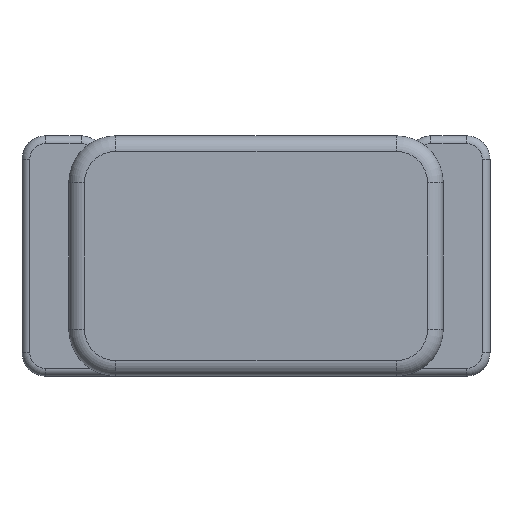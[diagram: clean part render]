
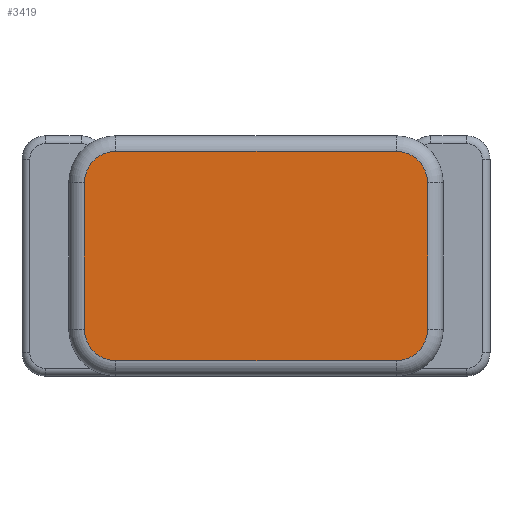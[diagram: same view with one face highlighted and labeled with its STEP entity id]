
A CAD part, front view. The second image highlights one B-rep face of the part: STEP entity #3419.
In plain terms, the highlighted planar face has unit normal (0, -1, 0).
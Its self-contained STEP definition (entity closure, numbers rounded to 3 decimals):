
#302=CARTESIAN_POINT('',(-3.7,-23.4,3.));
#303=DIRECTION('',(0.,-1.,0.));
#304=DIRECTION('',(0.,0.,-1.));
#305=AXIS2_PLACEMENT_3D('',#302,#303,#304);
#317=DIRECTION('',(-1.,0.,0.));
#318=VECTOR('',#317,18.);
#319=CARTESIAN_POINT('',(-3.7,-23.4,14.4));
#320=LINE('',#319,#318);
#330=CARTESIAN_POINT('',(-21.7,-23.4,12.4));
#331=DIRECTION('',(0.,-1.,0.));
#332=DIRECTION('',(0.,0.,1.));
#333=AXIS2_PLACEMENT_3D('',#330,#331,#332);
#345=DIRECTION('',(0.,0.,-1.));
#346=VECTOR('',#345,9.4);
#347=CARTESIAN_POINT('',(-23.7,-23.4,12.4));
#348=LINE('',#347,#346);
#358=CARTESIAN_POINT('',(-21.7,-23.4,3.));
#359=DIRECTION('',(0.,-1.,0.));
#360=DIRECTION('',(-1.,0.,0.));
#361=AXIS2_PLACEMENT_3D('',#358,#359,#360);
#373=DIRECTION('',(1.,0.,0.));
#374=VECTOR('',#373,18.);
#375=CARTESIAN_POINT('',(-21.7,-23.4,1.));
#376=LINE('',#375,#374);
#2182=DIRECTION('',(0.,0.,1.));
#2183=VECTOR('',#2182,9.4);
#2184=CARTESIAN_POINT('',(-1.7,-23.4,3.));
#2185=LINE('',#2184,#2183);
#2195=CARTESIAN_POINT('',(-3.7,-23.4,12.4));
#2196=DIRECTION('',(0.,-1.,0.));
#2197=DIRECTION('',(1.,0.,0.));
#2198=AXIS2_PLACEMENT_3D('',#2195,#2196,#2197);
#2719=CARTESIAN_POINT('',(-3.7,-23.4,14.4));
#2720=CARTESIAN_POINT('',(-21.7,-23.4,14.4));
#2721=VERTEX_POINT('',#2719);
#2722=VERTEX_POINT('',#2720);
#2727=CARTESIAN_POINT('',(-23.7,-23.4,12.4));
#2728=VERTEX_POINT('',#2727);
#2731=CARTESIAN_POINT('',(-23.7,-23.4,3.));
#2732=VERTEX_POINT('',#2731);
#2735=CARTESIAN_POINT('',(-21.7,-23.4,1.));
#2736=VERTEX_POINT('',#2735);
#2739=CARTESIAN_POINT('',(-3.7,-23.4,1.));
#2740=VERTEX_POINT('',#2739);
#2743=CARTESIAN_POINT('',(-1.7,-23.4,3.));
#2744=VERTEX_POINT('',#2743);
#2747=CARTESIAN_POINT('',(-1.7,-23.4,12.4));
#2748=VERTEX_POINT('',#2747);
#3397=CARTESIAN_POINT('',(-27.7,-23.4,15.4));
#3398=DIRECTION('',(0.,-1.,0.));
#3399=DIRECTION('',(0.,0.,-1.));
#3400=AXIS2_PLACEMENT_3D('',#3397,#3398,#3399);
#3401=PLANE('',#3400);
#3403=ORIENTED_EDGE('',*,*,#3402,.F.);
#3405=ORIENTED_EDGE('',*,*,#3404,.F.);
#3407=ORIENTED_EDGE('',*,*,#3406,.F.);
#3408=ORIENTED_EDGE('',*,*,#3387,.F.);
#3410=ORIENTED_EDGE('',*,*,#3409,.F.);
#3412=ORIENTED_EDGE('',*,*,#3411,.F.);
#3414=ORIENTED_EDGE('',*,*,#3413,.F.);
#3416=ORIENTED_EDGE('',*,*,#3415,.F.);
#3417=EDGE_LOOP('',(#3403,#3405,#3407,#3408,#3410,#3412,#3414,#3416));
#3418=FACE_OUTER_BOUND('',#3417,.F.);
#306=CIRCLE('',#305,2.);
#334=CIRCLE('',#333,2.);
#362=CIRCLE('',#361,2.);
#2199=CIRCLE('',#2198,2.);
#3387=EDGE_CURVE('',#2740,#2744,#306,.T.);
#3402=EDGE_CURVE('',#2721,#2722,#320,.T.);
#3404=EDGE_CURVE('',#2748,#2721,#2199,.T.);
#3406=EDGE_CURVE('',#2744,#2748,#2185,.T.);
#3409=EDGE_CURVE('',#2736,#2740,#376,.T.);
#3411=EDGE_CURVE('',#2732,#2736,#362,.T.);
#3413=EDGE_CURVE('',#2728,#2732,#348,.T.);
#3415=EDGE_CURVE('',#2722,#2728,#334,.T.);
#3419=ADVANCED_FACE('',(#3418),#3401,.T.);
